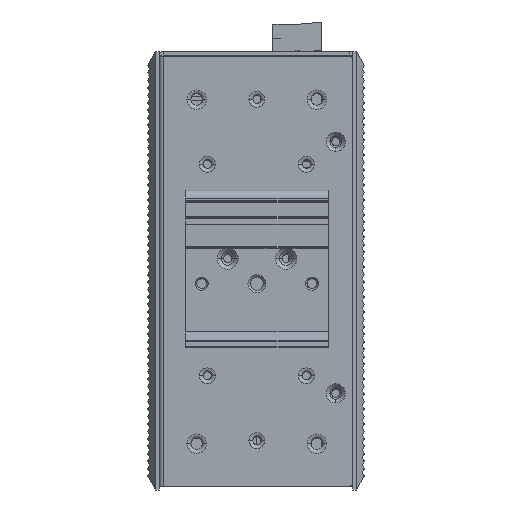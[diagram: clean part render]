
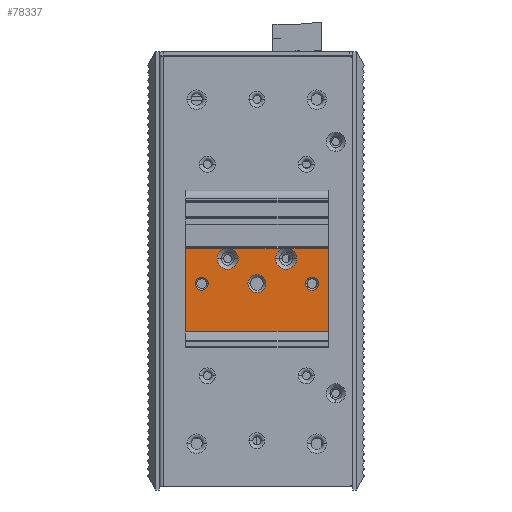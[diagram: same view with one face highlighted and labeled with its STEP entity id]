
A CAD part, left-side view. The second image highlights one B-rep face of the part: STEP entity #78337.
In plain terms, the highlighted planar face has unit normal (-1, 0, 0).
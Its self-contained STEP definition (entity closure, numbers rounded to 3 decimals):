
#77037=DIRECTION('',(0.,0.,-1.));
#77038=VECTOR('',#77037,25.635);
#77039=CARTESIAN_POINT('',(-51.4,7.51,3.81));
#77040=LINE('',#77039,#77038);
#77248=CARTESIAN_POINT('',(-51.4,38.51,0.61));
#77249=DIRECTION('',(1.,0.,0.));
#77250=DIRECTION('',(0.,1.,0.));
#77251=AXIS2_PLACEMENT_3D('',#77248,#77249,#77250);
#77253=CARTESIAN_POINT('',(-51.4,38.51,0.61));
#77254=DIRECTION('',(1.,0.,0.));
#77255=DIRECTION('',(0.,-1.,0.));
#77256=AXIS2_PLACEMENT_3D('',#77253,#77254,#77255);
#77258=CARTESIAN_POINT('',(-51.4,38.51,0.61));
#77259=DIRECTION('',(1.,0.,0.));
#77260=DIRECTION('',(0.,-0.175,0.985));
#77261=AXIS2_PLACEMENT_3D('',#77258,#77259,#77260);
#77263=CARTESIAN_POINT('',(-51.4,20.51,0.61));
#77264=DIRECTION('',(1.,0.,0.));
#77265=DIRECTION('',(0.,1.,0.));
#77266=AXIS2_PLACEMENT_3D('',#77263,#77264,#77265);
#77268=CARTESIAN_POINT('',(-51.4,20.51,0.61));
#77269=DIRECTION('',(1.,0.,0.));
#77270=DIRECTION('',(0.,-1.,0.));
#77271=AXIS2_PLACEMENT_3D('',#77268,#77269,#77270);
#77273=CARTESIAN_POINT('',(-51.4,20.51,0.61));
#77274=DIRECTION('',(1.,0.,0.));
#77275=DIRECTION('',(0.,-0.175,0.985));
#77276=AXIS2_PLACEMENT_3D('',#77273,#77274,#77275);
#77278=DIRECTION('',(0.,0.,-1.));
#77279=VECTOR('',#77278,25.635);
#77280=CARTESIAN_POINT('',(-51.4,51.51,3.81));
#77281=LINE('',#77280,#77279);
#77282=CARTESIAN_POINT('',(-51.4,29.51,-7.09));
#77283=DIRECTION('',(1.,0.,0.));
#77284=DIRECTION('',(0.,1.,0.));
#77285=AXIS2_PLACEMENT_3D('',#77282,#77283,#77284);
#77287=CARTESIAN_POINT('',(-51.4,29.51,-7.09));
#77288=DIRECTION('',(1.,0.,0.));
#77289=DIRECTION('',(0.,-1.,0.));
#77290=AXIS2_PLACEMENT_3D('',#77287,#77288,#77289);
#77292=CARTESIAN_POINT('',(-51.4,12.51,-7.09));
#77293=DIRECTION('',(1.,0.,0.));
#77294=DIRECTION('',(0.,1.,0.));
#77295=AXIS2_PLACEMENT_3D('',#77292,#77293,#77294);
#77297=CARTESIAN_POINT('',(-51.4,12.51,-7.09));
#77298=DIRECTION('',(1.,0.,0.));
#77299=DIRECTION('',(0.,-1.,0.));
#77300=AXIS2_PLACEMENT_3D('',#77297,#77298,#77299);
#77302=CARTESIAN_POINT('',(-51.4,46.51,-7.09));
#77303=DIRECTION('',(1.,0.,0.));
#77304=DIRECTION('',(0.,1.,0.));
#77305=AXIS2_PLACEMENT_3D('',#77302,#77303,#77304);
#77307=CARTESIAN_POINT('',(-51.4,46.51,-7.09));
#77308=DIRECTION('',(1.,0.,0.));
#77309=DIRECTION('',(0.,-1.,0.));
#77310=AXIS2_PLACEMENT_3D('',#77307,#77308,#77309);
#77325=DIRECTION('',(0.,-1.,0.));
#77326=VECTOR('',#77325,16.864);
#77327=CARTESIAN_POINT('',(-51.4,37.942,3.81));
#77328=LINE('',#77327,#77326);
#77329=CARTESIAN_POINT('',(-51.4,39.078,3.81));
#77336=DIRECTION('',(0.,-1.,0.));
#77337=VECTOR('',#77336,12.432);
#77338=CARTESIAN_POINT('',(-51.4,51.51,3.81));
#77339=LINE('',#77338,#77337);
#77344=DIRECTION('',(0.,-1.,0.));
#77345=VECTOR('',#77344,12.432);
#77346=CARTESIAN_POINT('',(-51.4,19.942,3.81));
#77347=LINE('',#77346,#77345);
#77353=CARTESIAN_POINT('',(-51.4,19.942,3.81));
#77562=DIRECTION('',(0.,1.,0.));
#77563=VECTOR('',#77562,44.);
#77564=CARTESIAN_POINT('',(-51.4,7.51,-21.825));
#77565=LINE('',#77564,#77563);
#77925=CARTESIAN_POINT('',(-51.4,7.51,3.81));
#77926=CARTESIAN_POINT('',(-51.4,7.51,-21.825));
#77927=VERTEX_POINT('',#77925);
#77928=VERTEX_POINT('',#77926);
#77929=CARTESIAN_POINT('',(-51.4,37.942,3.81));
#77930=CARTESIAN_POINT('',(-51.4,21.078,3.81));
#77931=VERTEX_POINT('',#77929);
#77932=VERTEX_POINT('',#77930);
#77937=VERTEX_POINT('',#77329);
#77938=VERTEX_POINT('',#77353);
#77943=CARTESIAN_POINT('',(-51.4,51.51,-21.825));
#77944=VERTEX_POINT('',#77943);
#77945=CARTESIAN_POINT('',(-51.4,41.76,0.61));
#77946=VERTEX_POINT('',#77945);
#77947=CARTESIAN_POINT('',(-51.4,35.26,0.61));
#77948=VERTEX_POINT('',#77947);
#77949=CARTESIAN_POINT('',(-51.4,51.51,3.81));
#77950=VERTEX_POINT('',#77949);
#77951=CARTESIAN_POINT('',(-51.4,23.76,0.61));
#77952=VERTEX_POINT('',#77951);
#77961=CARTESIAN_POINT('',(-51.4,17.26,0.61));
#77962=VERTEX_POINT('',#77961);
#77965=CARTESIAN_POINT('',(-51.4,32.26,-7.09));
#77966=CARTESIAN_POINT('',(-51.4,26.76,-7.09));
#77967=VERTEX_POINT('',#77965);
#77968=VERTEX_POINT('',#77966);
#77981=CARTESIAN_POINT('',(-51.4,14.51,-7.09));
#77982=CARTESIAN_POINT('',(-51.4,10.51,-7.09));
#77983=VERTEX_POINT('',#77981);
#77984=VERTEX_POINT('',#77982);
#78003=CARTESIAN_POINT('',(-51.4,48.51,-7.09));
#78004=CARTESIAN_POINT('',(-51.4,44.51,-7.09));
#78005=VERTEX_POINT('',#78003);
#78006=VERTEX_POINT('',#78004);
#78289=CARTESIAN_POINT('',(-51.4,55.91,4.01));
#78290=DIRECTION('',(1.,0.,0.));
#78291=DIRECTION('',(0.,0.,-1.));
#78292=AXIS2_PLACEMENT_3D('',#78289,#78290,#78291);
#78293=PLANE('',#78292);
#78295=ORIENTED_EDGE('',*,*,#78294,.F.);
#78297=ORIENTED_EDGE('',*,*,#78296,.F.);
#78299=ORIENTED_EDGE('',*,*,#78298,.F.);
#78301=ORIENTED_EDGE('',*,*,#78300,.T.);
#78303=ORIENTED_EDGE('',*,*,#78302,.F.);
#78305=ORIENTED_EDGE('',*,*,#78304,.F.);
#78307=ORIENTED_EDGE('',*,*,#78306,.F.);
#78309=ORIENTED_EDGE('',*,*,#78308,.T.);
#78310=ORIENTED_EDGE('',*,*,#78192,.T.);
#78312=ORIENTED_EDGE('',*,*,#78311,.T.);
#78314=ORIENTED_EDGE('',*,*,#78313,.F.);
#78316=ORIENTED_EDGE('',*,*,#78315,.T.);
#78317=EDGE_LOOP('',(#78295,#78297,#78299,#78301,#78303,#78305,#78307,#78309,
#78310,#78312,#78314,#78316));
#78318=FACE_OUTER_BOUND('',#78317,.F.);
#78320=ORIENTED_EDGE('',*,*,#78319,.F.);
#78322=ORIENTED_EDGE('',*,*,#78321,.F.);
#78323=EDGE_LOOP('',(#78320,#78322));
#78324=FACE_BOUND('',#78323,.F.);
#78326=ORIENTED_EDGE('',*,*,#78325,.F.);
#78328=ORIENTED_EDGE('',*,*,#78327,.F.);
#78329=EDGE_LOOP('',(#78326,#78328));
#78330=FACE_BOUND('',#78329,.F.);
#78332=ORIENTED_EDGE('',*,*,#78331,.F.);
#78334=ORIENTED_EDGE('',*,*,#78333,.F.);
#78335=EDGE_LOOP('',(#78332,#78334));
#78336=FACE_BOUND('',#78335,.F.);
#78337=ADVANCED_FACE('',(#78318,#78324,#78330,#78336),#78293,.F.);
#77252=CIRCLE('',#77251,3.25);
#77257=CIRCLE('',#77256,3.25);
#77262=CIRCLE('',#77261,3.25);
#77267=CIRCLE('',#77266,3.25);
#77272=CIRCLE('',#77271,3.25);
#77277=CIRCLE('',#77276,3.25);
#77286=CIRCLE('',#77285,2.75);
#77291=CIRCLE('',#77290,2.75);
#77296=CIRCLE('',#77295,2.);
#77301=CIRCLE('',#77300,2.);
#77306=CIRCLE('',#77305,2.);
#77311=CIRCLE('',#77310,2.);
#78192=EDGE_CURVE('',#77927,#77928,#77040,.T.);
#78294=EDGE_CURVE('',#77946,#77937,#77252,.T.);
#78296=EDGE_CURVE('',#77948,#77946,#77257,.T.);
#78298=EDGE_CURVE('',#77931,#77948,#77262,.T.);
#78300=EDGE_CURVE('',#77931,#77932,#77328,.T.);
#78302=EDGE_CURVE('',#77952,#77932,#77267,.T.);
#78304=EDGE_CURVE('',#77962,#77952,#77272,.T.);
#78306=EDGE_CURVE('',#77938,#77962,#77277,.T.);
#78308=EDGE_CURVE('',#77938,#77927,#77347,.T.);
#78311=EDGE_CURVE('',#77928,#77944,#77565,.T.);
#78313=EDGE_CURVE('',#77950,#77944,#77281,.T.);
#78315=EDGE_CURVE('',#77950,#77937,#77339,.T.);
#78319=EDGE_CURVE('',#77967,#77968,#77286,.T.);
#78321=EDGE_CURVE('',#77968,#77967,#77291,.T.);
#78325=EDGE_CURVE('',#77983,#77984,#77296,.T.);
#78327=EDGE_CURVE('',#77984,#77983,#77301,.T.);
#78331=EDGE_CURVE('',#78005,#78006,#77306,.T.);
#78333=EDGE_CURVE('',#78006,#78005,#77311,.T.);
